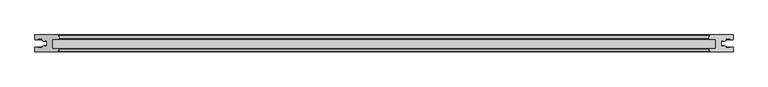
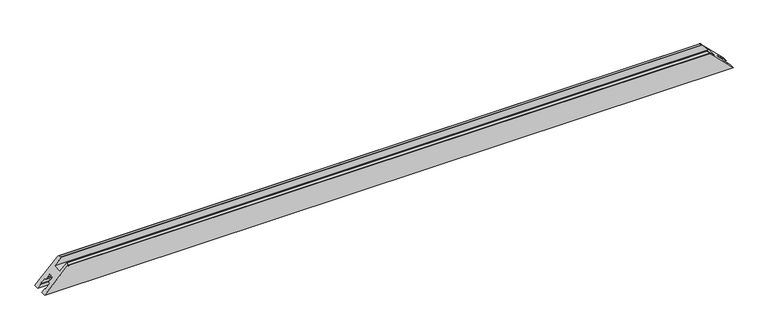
"""IFC4 building model written with IfcOpenShell, lengths in millimetres: proxy geometry, Weiku - Montante - Folha de correr 02.2.01.020 : Weiku - Montante - Folha de correr 02.2.01.020."""

from ifc_helpers import new_model, si_unit, frame, origin, place, context, project, spatial, ellipse_curve, source, transform, mapped, element, save
from ifc_brep_helpers import plane_surface, cylinder_surface, advanced_brep


def generic_models_d31fccc8(model_context):
    return source(origin(), model_context, "Body", "AdvancedBrep", [
        advanced_brep(
        [(1022.7, 50.0, 0.0), (-1022.7, 50.0, 0.0), (-956.2004942, 50.0, 66.4995058), (956.2004942, 50.0, 66.4995058), (1022.7, 35.5, 0.0), (-1022.7, 35.5, 0.0), (-1022.7, 0.0, 0.0), (1022.7, 0.0, 0.0), (955.1879875, 0.0, 67.5120125), (-955.1879875, 0.0, 67.5120125), (-1014.1, 35.5, 8.6), (-1014.1, 38.3, 8.6), (-1000.9, 38.3, 21.8), (-1000.9, 33.1, 21.8), (-998.5524152, 33.1, 24.1475848), (-998.7273926, 31.1, 23.9726074), (-995.9, 31.1, 26.8), (-995.9, 33.1, 26.8), (-988.7, 33.1, 34.0), (-988.7, 16.9, 34.0), (-995.9, 16.9, 26.8), (-995.9, 18.9, 26.8), (-998.7273926, 18.9, 23.9726074), (-998.5524152, 16.9, 24.1475848), (-1000.9, 16.9, 21.8), (-1000.9, 11.7, 21.8), (-1014.1, 11.7, 8.6), (-1014.1, 14.5, 8.6), (-1022.7, 14.5, 0.0), (-954.2940268, 0.5518546, 68.4059732), (-950.7520406, 7.617411, 71.9479594), (-951.9141895, 9.5, 70.7858105), (-971.7007611, 9.5, 50.9992389), (-971.7007611, 37.5, 50.9992389), (-951.2007611, 37.5, 71.4992389), (-950.7177981, 38.1294095, 71.9822019), (-953.3027168, 47.7764571, 69.3972832), (953.3027168, 47.7764571, 69.3972832), (950.7177981, 38.1294095, 71.9822019), (951.2007611, 37.5, 71.4992389), (971.7007611, 37.5, 50.9992389), (971.7007611, 9.5, 50.9992389), (951.9141895, 9.5, 70.7858105), (950.7520406, 7.617411, 71.9479594), (954.2940268, 0.5518546, 68.4059732), (1022.7, 14.5, 0.0), (1014.1, 14.5, 8.6), (1014.1, 11.7, 8.6), (1000.9, 11.7, 21.8), (1000.9, 16.9, 21.8), (998.5524152, 16.9, 24.1475848), (998.7273926, 18.9, 23.9726074), (995.9, 18.9, 26.8), (995.9, 16.9, 26.8), (988.7, 16.9, 34.0), (988.7, 33.1, 34.0), (995.9, 33.1, 26.8), (995.9, 31.1, 26.8), (998.7273926, 31.1, 23.9726074), (998.5524152, 33.1, 24.1475848), (1000.9, 33.1, 21.8), (1000.9, 38.3, 21.8), (1014.1, 38.3, 8.6), (1014.1, 35.5, 8.6)],
        [
            (0, 1),
            (1, 2),
            (2, 3),
            (3, 0),
            (0, 4),
            (4, 5),
            (5, 1),
            (6, 7),
            (7, 8),
            (8, 9),
            (9, 6),
            (5, 10),
            (10, 11),
            (11, 12),
            (12, 13),
            (13, 14),
            (14, 15),
            (15, 16),
            (16, 17),
            (17, 18),
            (18, 19),
            (19, 20),
            (20, 21),
            (21, 22),
            (22, 23),
            (23, 24),
            (24, 25),
            (25, 26),
            (26, 27),
            (27, 28),
            (28, 6),
            (9, 29, ellipse_curve(frame((-955.1879875, 1.0, 67.5120125), z_axis=(-0.7071067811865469, 0.0, 0.7071067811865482), x_axis=(-0.707106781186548, 0.0, -0.7071067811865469)), 1.4142136, 1.0)),
            (29, 30),
            (30, 31, ellipse_curve(frame((-951.9141895, 8.2, 70.7858105), z_axis=(-0.7071067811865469, 0.0, 0.7071067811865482), x_axis=(-0.707106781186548, 0.0, -0.7071067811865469)), 1.8384776, 1.3)),
            (31, 32),
            (32, 33),
            (33, 34),
            (34, 35, ellipse_curve(frame((-951.2007611, 38.0, 71.4992389), z_axis=(-0.7071067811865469, 0.0, 0.7071067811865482), x_axis=(-0.707106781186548, 0.0, -0.7071067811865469)), 0.7071068, 0.5)),
            (35, 36),
            (36, 2, ellipse_curve(frame((-956.2004942, 47.0, 66.4995058), z_axis=(-0.7071067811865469, 0.0, 0.7071067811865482), x_axis=(-0.707106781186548, 0.0, -0.7071067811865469)), 4.2426407, 3.0)),
            (3, 37, ellipse_curve(frame((956.2004942, 47.0, 66.4995058), z_axis=(0.7071067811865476, 0.0, 0.7071067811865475), x_axis=(-0.7071067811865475, 0.0, 0.7071067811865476)), 4.2426407, 3.0)),
            (37, 38),
            (38, 39, ellipse_curve(frame((951.2007611, 38.0, 71.4992389), z_axis=(0.7071067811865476, 0.0, 0.7071067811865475), x_axis=(-0.7071067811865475, 0.0, 0.7071067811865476)), 0.7071068, 0.5)),
            (39, 40),
            (40, 41),
            (41, 42),
            (42, 43, ellipse_curve(frame((951.9141895, 8.2, 70.7858105), z_axis=(0.7071067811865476, 0.0, 0.7071067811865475), x_axis=(-0.7071067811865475, 0.0, 0.7071067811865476)), 1.8384776, 1.3)),
            (43, 44),
            (44, 8, ellipse_curve(frame((955.1879875, 1.0, 67.5120125), z_axis=(0.7071067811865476, 0.0, 0.7071067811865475), x_axis=(-0.7071067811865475, 0.0, 0.7071067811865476)), 1.4142136, 1.0)),
            (7, 45),
            (45, 46),
            (46, 47),
            (47, 48),
            (48, 49),
            (49, 50),
            (50, 51),
            (51, 52),
            (52, 53),
            (53, 54),
            (54, 55),
            (55, 56),
            (56, 57),
            (57, 58),
            (58, 59),
            (59, 60),
            (60, 61),
            (61, 62),
            (62, 63),
            (63, 4),
            (44, 29),
            (43, 30),
            (42, 31),
            (41, 32),
            (40, 33),
            (39, 34),
            (38, 35),
            (37, 36),
            (63, 10),
            (62, 11),
            (61, 12),
            (60, 13),
            (59, 14),
            (58, 15),
            (57, 16),
            (56, 17),
            (55, 18),
            (54, 19),
            (53, 20),
            (52, 21),
            (51, 22),
            (50, 23),
            (49, 24),
            (48, 25),
            (47, 26),
            (46, 27),
            (45, 28),
        ],
        [
            plane_surface(frame((-1022.7, 50.0, 66.4995058), z_axis=(0.0, 1.0, 0.0), x_axis=(1.0, 0.0, 0.0))),
            plane_surface(frame((-1022.7, 50.0, 0.0), z_axis=(0.0, 0.0, -1.0), x_axis=(1.0, 0.0, 0.0))),
            plane_surface(frame((-1022.7, 0.0, 0.0), z_axis=(0.0, -1.0, 0.0), x_axis=(1.0, 0.0, 0.0))),
            plane_surface(frame((-1050.9842712, 0.0, -28.2842712), z_axis=(-0.7071067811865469, 0.0, 0.7071067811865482), x_axis=(0.0, 1.0, 0.0))),
            plane_surface(frame((942.7, 0.0, 80.0), z_axis=(0.7071067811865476, 0.0, 0.7071067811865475), x_axis=(0.0, 1.0, 0.0))),
            cylinder_surface(frame((-1022.7, 1.0, 67.5120125), z_axis=(-1.0, 0.0, 0.0), x_axis=(0.0, 1.0, 0.0)), 1.0),
            plane_surface(frame((-1022.7, 0.5518546, 68.4059732), z_axis=(0.0, -0.4481453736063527, 0.8939606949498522), x_axis=(1.0, 0.0, 0.0))),
            cylinder_surface(frame((-1022.7, 8.2, 70.7858105), z_axis=(-1.0, 0.0, 0.0), x_axis=(0.0, 1.0, 0.0)), 1.3),
            plane_surface(frame((-1022.7, 9.5, 70.7858105), z_axis=(0.0, 1.0, 0.0), x_axis=(1.0, 0.0, 0.0))),
            plane_surface(frame((-1022.7, 9.5, 50.9992389), z_axis=(0.0, 0.0, 1.0), x_axis=(1.0, 0.0, 0.0))),
            plane_surface(frame((-1022.7, 37.5, 50.9992389), z_axis=(0.0, -1.0, 0.0), x_axis=(1.0, 0.0, 0.0))),
            cylinder_surface(frame((-1022.7, 38.0, 71.4992389), z_axis=(-1.0, 0.0, 0.0), x_axis=(0.0, 1.0, 0.0)), 0.5),
            plane_surface(frame((-1022.7, 38.1294095, 71.9822019), z_axis=(0.0, 0.2588190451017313, 0.9659258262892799), x_axis=(1.0, 0.0, 0.0))),
            cylinder_surface(frame((-1022.7, 47.0, 66.4995058), z_axis=(-1.0, 0.0, 0.0), x_axis=(0.0, 1.0, 0.0)), 3.0),
            plane_surface(frame((-1022.7, 35.5, 0.0), z_axis=(0.0, -1.0, 0.0), x_axis=(1.0, 0.0, 0.0))),
            plane_surface(frame((-1022.7, 35.5, 8.6), z_axis=(0.0, 0.0, 1.0), x_axis=(1.0, 0.0, 0.0))),
            plane_surface(frame((-1022.7, 38.3, 8.6), z_axis=(0.0, -1.0, 0.0), x_axis=(1.0, 0.0, 0.0))),
            plane_surface(frame((-1022.7, 38.3, 21.8), z_axis=(0.0, 0.0, -1.0), x_axis=(1.0, 0.0, 0.0))),
            plane_surface(frame((-1022.7, 33.1, 21.8), z_axis=(0.0, -1.0, 0.0), x_axis=(1.0, 0.0, 0.0))),
            plane_surface(frame((-1022.7, 33.1, 24.1475848), z_axis=(0.0, 0.08715574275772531, -0.9961946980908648), x_axis=(1.0, 0.0, 0.0))),
            plane_surface(frame((-1022.7, 31.1, 23.9726074), z_axis=(0.0, -1.0, 0.0), x_axis=(1.0, 0.0, 0.0))),
            plane_surface(frame((-1022.7, 31.1, 26.8), z_axis=(0.0, 0.0, 1.0), x_axis=(1.0, 0.0, 0.0))),
            plane_surface(frame((-1022.7, 33.1, 26.8), z_axis=(0.0, -1.0, 0.0), x_axis=(1.0, 0.0, 0.0))),
            plane_surface(frame((-1022.7, 33.1, 34.0), z_axis=(0.0, 0.0, -1.0), x_axis=(1.0, 0.0, 0.0))),
            plane_surface(frame((-1022.7, 16.9, 34.0), z_axis=(0.0, 1.0, 0.0), x_axis=(1.0, 0.0, 0.0))),
            plane_surface(frame((-1022.7, 16.9, 26.8), z_axis=(0.0, 0.0, 1.0), x_axis=(1.0, 0.0, 0.0))),
            plane_surface(frame((-1022.7, 18.9, 26.8), z_axis=(0.0, 1.0, 0.0), x_axis=(1.0, 0.0, 0.0))),
            plane_surface(frame((-1022.7, 18.9, 23.9726074), z_axis=(0.0, -0.08715574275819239, -0.9961946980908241), x_axis=(1.0, 0.0, 0.0))),
            plane_surface(frame((-1022.7, 16.9, 24.1475848), z_axis=(0.0, 1.0, 0.0), x_axis=(1.0, 0.0, 0.0))),
            plane_surface(frame((-1022.7, 16.9, 21.8), z_axis=(0.0, 0.0, -1.0), x_axis=(1.0, 0.0, 0.0))),
            plane_surface(frame((-1022.7, 11.7, 21.8), z_axis=(0.0, 1.0, 0.0), x_axis=(1.0, 0.0, 0.0))),
            plane_surface(frame((-1022.7, 11.7, 8.6), z_axis=(0.0, 0.0, 1.0), x_axis=(1.0, 0.0, 0.0))),
            plane_surface(frame((-1022.7, 14.5, 8.6), z_axis=(0.0, 1.0, 0.0), x_axis=(1.0, 0.0, 0.0))),
            plane_surface(frame((-1022.7, 14.5, 0.0), z_axis=(0.0, 0.0, -1.0), x_axis=(1.0, 0.0, 0.0))),
        ],
        [
            (0, [[1, 2, 3, 4]]),
            (1, [[-1, 5, 6, 7]]),
            (2, [[8, 9, 10, 11]]),
            (3, [[-2, -7, 12, 13, 14, 15, 16, 17, 18, 19, 20, 21, 22, 23, 24, 25, 26, 27, 28, 29, 30, 31, -11, 32, 33, 34, 35, 36, 37, 38, 39, 40]]),
            (4, [[-4, 41, 42, 43, 44, 45, 46, 47, 48, 49, -9, 50, 51, 52, 53, 54, 55, 56, 57, 58, 59, 60, 61, 62, 63, 64, 65, 66, 67, 68, 69, -5]]),
            (5, [[-32, -10, -49, 70]]),
            (6, [[-33, -70, -48, 71]]),
            (7, [[-34, -71, -47, 72]]),
            (8, [[-35, -72, -46, 73]]),
            (9, [[-36, -73, -45, 74]]),
            (10, [[-37, -74, -44, 75]]),
            (11, [[-38, -75, -43, 76]]),
            (12, [[-39, -76, -42, 77]]),
            (13, [[-40, -77, -41, -3]]),
            (14, [[-6, -69, 78, -12]]),
            (15, [[-13, -78, -68, 79]]),
            (16, [[-14, -79, -67, 80]]),
            (17, [[-15, -80, -66, 81]]),
            (18, [[-16, -81, -65, 82]]),
            (19, [[-17, -82, -64, 83]]),
            (20, [[-18, -83, -63, 84]]),
            (21, [[-19, -84, -62, 85]]),
            (22, [[-20, -85, -61, 86]]),
            (23, [[-21, -86, -60, 87]]),
            (24, [[-22, -87, -59, 88]]),
            (25, [[-23, -88, -58, 89]]),
            (26, [[-24, -89, -57, 90]]),
            (27, [[-25, -90, -56, 91]]),
            (28, [[-26, -91, -55, 92]]),
            (29, [[-27, -92, -54, 93]]),
            (30, [[-28, -93, -53, 94]]),
            (31, [[-29, -94, -52, 95]]),
            (32, [[96, -30, -95, -51]]),
            (33, [[-8, -31, -96, -50]]),
        ],
    ),
    ])


if __name__ == "__main__":
    model = new_model("IFC4")
    model_context = context("Model", 3, world=origin())
    ifc_project = project(units=[si_unit("LENGTHUNIT", "METRE", prefix="MILLI")], contexts=[model_context])
    site = spatial("IfcSite", under=ifc_project)
    building = spatial("IfcBuilding", under=site)
    placement = place(None, origin())
    generic_models_shape = generic_models_d31fccc8(model_context)
    element("IfcBuildingElementProxy", 1, Name="Weiku - Montante - Folha de correr 02.2.01.020 : Weiku - Montante - Folha de correr 02.2.01.020", ObjectType="Weiku - Montante - Folha de correr 02.2.01.020 : Weiku - Montante - Folha de correr 02.2.01.020", at=placement, inside=building, context=model_context, shape_type="MappedRepresentation", body=[
        mapped(generic_models_shape, transform((0.0, 0.0, 0.0), x_axis=(1.0, 0.0, 0.0), y_axis=(0.0, 1.0, 0.0), z_axis=(0.0, 0.0, 1.0))),
    ])
    save(model, "model.ifc")
